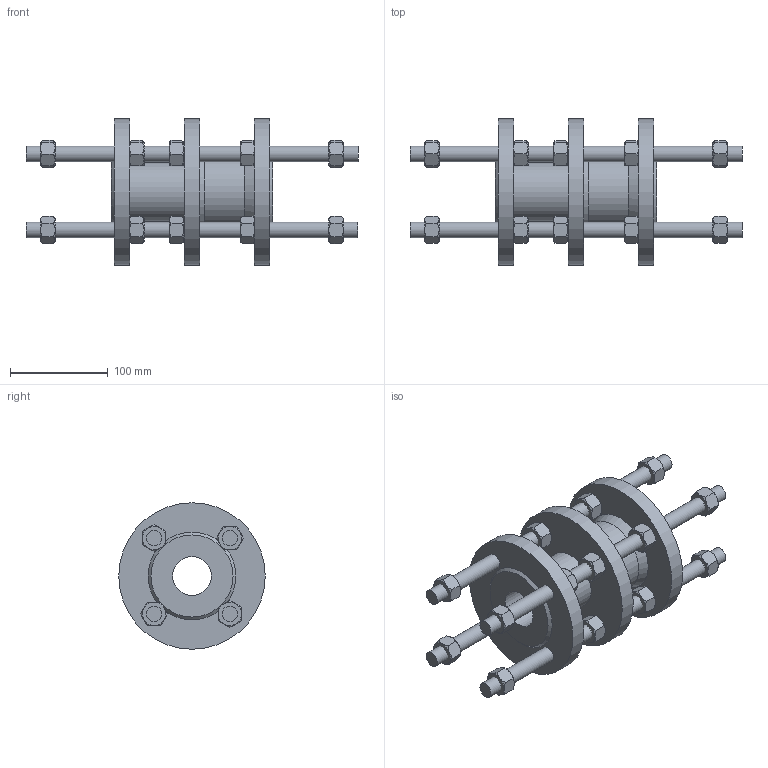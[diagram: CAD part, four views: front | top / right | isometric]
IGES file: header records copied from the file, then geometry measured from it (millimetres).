
Start section: SolidWorks IGES file using analytic representation for surfaces
Global section: file name: X:\AR\CV\873\873-0040-00-741000\873-0040-00-741000.IGS; native system: SolidWorks 2020; preprocessor: SolidWorks 2020; author: m.lucatello; date: 211105.085215; units: millimetre
Bounding box: 340 x 150 x 150 mm (x, y, z)
Surface area: 261789.6 mm2 (no closed solid volume)
Topology: 0 solids, 0 shells, 463 faces, 1922 edges, 1876 vertices
Faces by surface type: revolution 286, bspline 177
